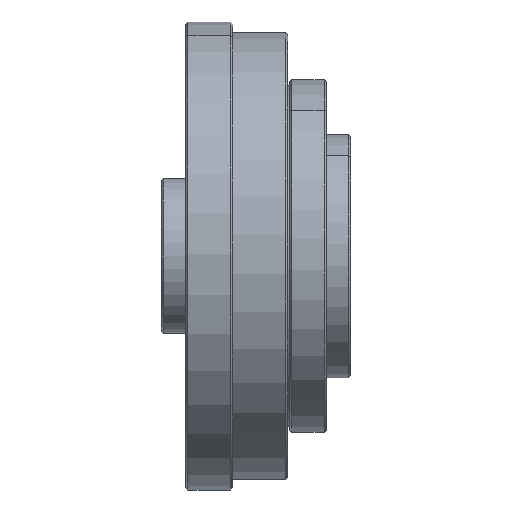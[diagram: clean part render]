
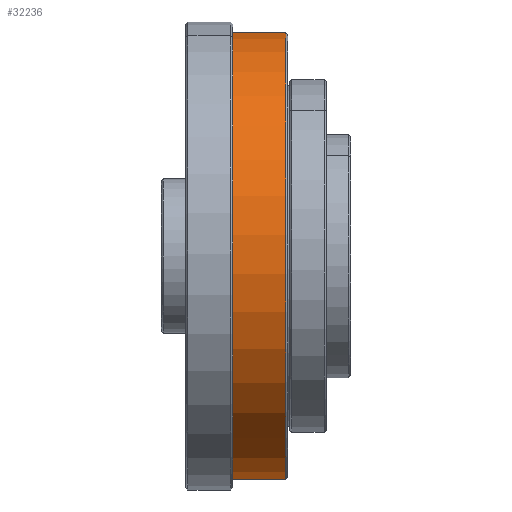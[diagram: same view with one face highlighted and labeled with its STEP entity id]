
A CAD part, front view. The second image highlights one B-rep face of the part: STEP entity #32236.
In plain terms, the highlighted cylindrical face has radius 55 mm (diameter 110 mm), a partial arc.
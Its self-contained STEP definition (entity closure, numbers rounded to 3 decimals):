
#120 = DIRECTION ( 'NONE',  ( -1., 0., 0. ) ) ;
#663 = ORIENTED_EDGE ( 'NONE', *, *, #12806, .T. ) ;
#1799 = DIRECTION ( 'NONE',  ( -1., 0., 0. ) ) ;
#2066 = AXIS2_PLACEMENT_3D ( 'NONE', #29783, #32673, #6975 ) ;
#2196 = VERTEX_POINT ( 'NONE', #10218 ) ;
#3942 = VERTEX_POINT ( 'NONE', #24360 ) ;
#4033 = CIRCLE ( 'NONE', #5893, 55. ) ;
#5711 = DIRECTION ( 'NONE',  ( -1., 0., 0. ) ) ;
#5893 = AXIS2_PLACEMENT_3D ( 'NONE', #22769, #5711, #25630 ) ;
#6975 = DIRECTION ( 'NONE',  ( 0., 0., 1. ) ) ;
#7993 = VECTOR ( 'NONE', #120, 1000. ) ;
#8194 = AXIS2_PLACEMENT_3D ( 'NONE', #33421, #16322, #36297 ) ;
#8276 = FACE_OUTER_BOUND ( 'NONE', #11513, .T. ) ;
#8919 = VECTOR ( 'NONE', #1799, 1000. ) ;
#9294 = CARTESIAN_POINT ( 'NONE',  ( 38.125, 0., 55. ) ) ;
#10218 = CARTESIAN_POINT ( 'NONE',  ( 22.325, 0., 55. ) ) ;
#11513 = EDGE_LOOP ( 'NONE', ( #26308, #14584, #663, #33322 ) ) ;
#12806 = EDGE_CURVE ( 'NONE', #31466, #2196, #16521, .T. ) ;
#14584 = ORIENTED_EDGE ( 'NONE', *, *, #21869, .T. ) ;
#15575 = LINE ( 'NONE', #34342, #7993 ) ;
#16322 = DIRECTION ( 'NONE',  ( -1., 0., 0. ) ) ;
#16521 = LINE ( 'NONE', #18917, #8919 ) ;
#18917 = CARTESIAN_POINT ( 'NONE',  ( 0., 0., 55. ) ) ;
#20131 = VERTEX_POINT ( 'NONE', #34583 ) ;
#21746 = CIRCLE ( 'NONE', #8194, 55. ) ;
#21869 = EDGE_CURVE ( 'NONE', #20131, #31466, #21746, .T. ) ;
#22769 = CARTESIAN_POINT ( 'NONE',  ( 22.325, 0., 0. ) ) ;
#24360 = CARTESIAN_POINT ( 'NONE',  ( 22.325, 0., -55. ) ) ;
#25383 = EDGE_CURVE ( 'NONE', #3942, #2196, #4033, .T. ) ;
#25630 = DIRECTION ( 'NONE',  ( 0., 0., 1. ) ) ;
#26308 = ORIENTED_EDGE ( 'NONE', *, *, #26567, .F. ) ;
#26567 = EDGE_CURVE ( 'NONE', #20131, #3942, #15575, .T. ) ;
#29783 = CARTESIAN_POINT ( 'NONE',  ( 0., 0., 0. ) ) ;
#31466 = VERTEX_POINT ( 'NONE', #9294 ) ;
#32236 = ADVANCED_FACE ( 'NONE', ( #8276 ), #36857, .T. ) ;
#32673 = DIRECTION ( 'NONE',  ( -1., 0., 0. ) ) ;
#33322 = ORIENTED_EDGE ( 'NONE', *, *, #25383, .F. ) ;
#33421 = CARTESIAN_POINT ( 'NONE',  ( 38.125, 0., 0. ) ) ;
#34342 = CARTESIAN_POINT ( 'NONE',  ( 0., 0., -55. ) ) ;
#34583 = CARTESIAN_POINT ( 'NONE',  ( 38.125, 0., -55. ) ) ;
#36297 = DIRECTION ( 'NONE',  ( 0., 0., 1. ) ) ;
#36857 = CYLINDRICAL_SURFACE ( 'NONE', #2066, 55. ) ;
